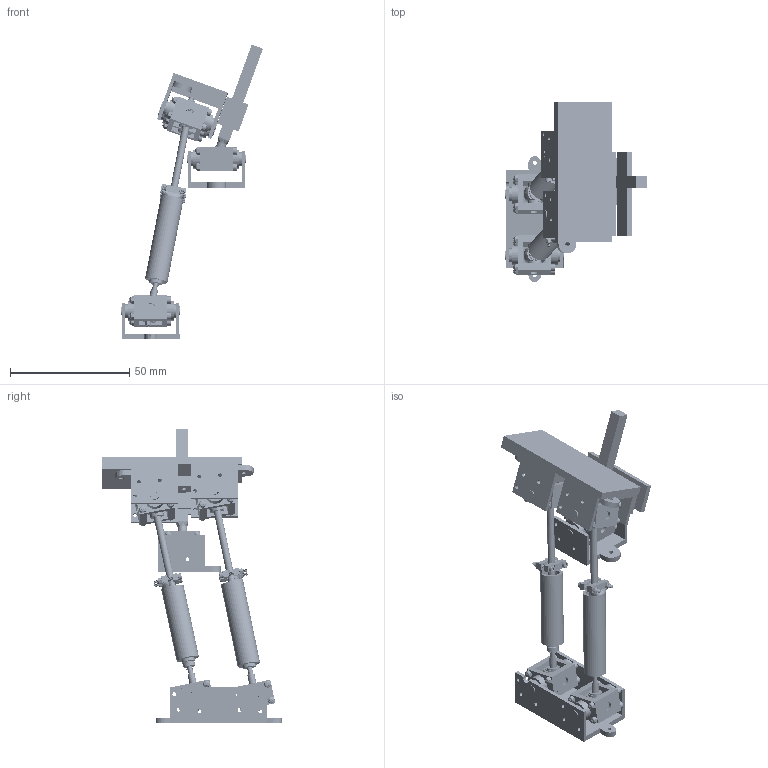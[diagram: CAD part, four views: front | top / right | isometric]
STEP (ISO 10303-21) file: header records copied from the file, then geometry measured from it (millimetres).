
FILE_DESCRIPTION(/* description */ (''),/* implementation_level */ '2;1');
FILE_NAME(/* name */ 'Abduction by 20 degrees from 06 project 95 from 05 Project Four Fingers etc.step',/* time_stamp */ '2026-07-05T19:09:19-04:00',/* author */ (''),/* organization */ (''),/* preprocessor_version */ 'ST-DEVELOPER v20.1',/* originating_system */ 'Autodesk Translation Framework v15.8.0.0',/* authorisation */ '');
FILE_SCHEMA (('AUTOMOTIVE_DESIGN { 1 0 10303 214 3 1 1 }'));
Products named in the file (152): 2026-07-05-19-09-15-383; 2026-07-05-19-09-15-388; #321788; #321789; 2026-07-05-19-09-15-388_2; 2026-07-05-19-09-15-450; #321792; #321793; #321794; #321795; #321796; 2026-07-05-19-09-15-461; 2026-07-05-19-09-15-463; 2026-07-05-19-09-15-464_2; 2026-07-05-19-09-15-464_3; #321801; #321802; #321803; #321804; 2026-07-05-19-09-15-461_1; 2026-07-05-19-09-15-463_4; #321807; 2026-07-05-19-09-15-462_2; 2026-07-05-19-09-15-460; 2026-07-05-19-09-15-461_2; 2026-07-05-19-09-15-464_4; #321812; #321813; #321814; #321815; #321816; #321817; #321818; #321819; 2026-07-05-19-09-15-474; 2026-07-05-19-09-15-477; 2026-07-05-19-09-15-480_2; 2026-07-05-19-09-15-480_3; #321824; #321825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
Assembly tree (161 placements, depth 7):
  2026-07-05-19-09-15-383
    2026-07-05-19-09-15-388
      #321788
      #321789
      2026-07-05-19-09-15-388_2
      2026-07-05-19-09-15-450
        #321792
        #321793
          #321794
            #321795
            #321796
              2026-07-05-19-09-15-461
              2026-07-05-19-09-15-463
              2026-07-05-19-09-15-464_2
              2026-07-05-19-09-15-464_3
              #321801
              #321802
              #321803
              #321804
              2026-07-05-19-09-15-461_1
              2026-07-05-19-09-15-463_4
              #321807
              2026-07-05-19-09-15-462_2
              2026-07-05-19-09-15-460
              2026-07-05-19-09-15-461_2
              2026-07-05-19-09-15-464_4
              #321812
            #321813
              #321814
              #321815
              #321816
        #321817
          #321818
          #321819
            2026-07-05-19-09-15-474
            2026-07-05-19-09-15-477
            2026-07-05-19-09-15-480_2
            2026-07-05-19-09-15-480_3
            #321824
            #321825
            #321826
            #321827
            2026-07-05-19-09-15-477_1
            2026-07-05-19-09-15-478
            #321830
            2026-07-05-19-09-15-479_1
            2026-07-05-19-09-15-479_2
            2026-07-05-19-09-15-480_4
            2026-07-05-19-09-15-480_5
            #321835
          #321836
            #321837
            #321838
            #321839
    #321840
      2026-07-05-19-09-15-412_1
        #321842
      2026-07-05-19-09-15-412_2
      2026-07-05-19-09-15-413
        2026-07-05-19-09-15-411
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Bounding box: 59.37 x 75.28 x 123.41 mm (x, y, z)
Volume: 33066 mm3; surface area: 42919.2 mm2
Topology: 136 solids, 140 shells, 5206 faces, 13313 edges, 8568 vertices
Faces by surface type: cylinder 2814, plane 1050, cone 651, bspline 535, torus 156
Full cylindrical faces by diameter (mm): 0.971 x12, 1.002 x132, 1.021 x20, 1.145 x894, 1.2 x2, 1.257 x20, 1.333 x2, 1.379 x40, 1.4 x132, 1.541 x18, 1.545 x20, 1.586 x4, 1.6 x932, 1.72 x2, 1.907 x20, 1.926 x36, 1.97 x2, 2 x13, 2.1 x4, 2.2 x4, 2.625 x4, 2.722 x2, 3 x76, 3.6 x52, 4 x1, 4.979 x2, 5 x2, 5.5 x4, 5.6 x2, 5.8 x30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
Entity records: 319246 total; most frequent: CARTESIAN_POINT 217716, ORIENTED_EDGE 23274, DIRECTION 16871, EDGE_CURVE 11649, VERTEX_POINT 7484, AXIS2_PLACEMENT_3D 6627, EDGE_LOOP 5033, FACE_OUTER_BOUND 4590
